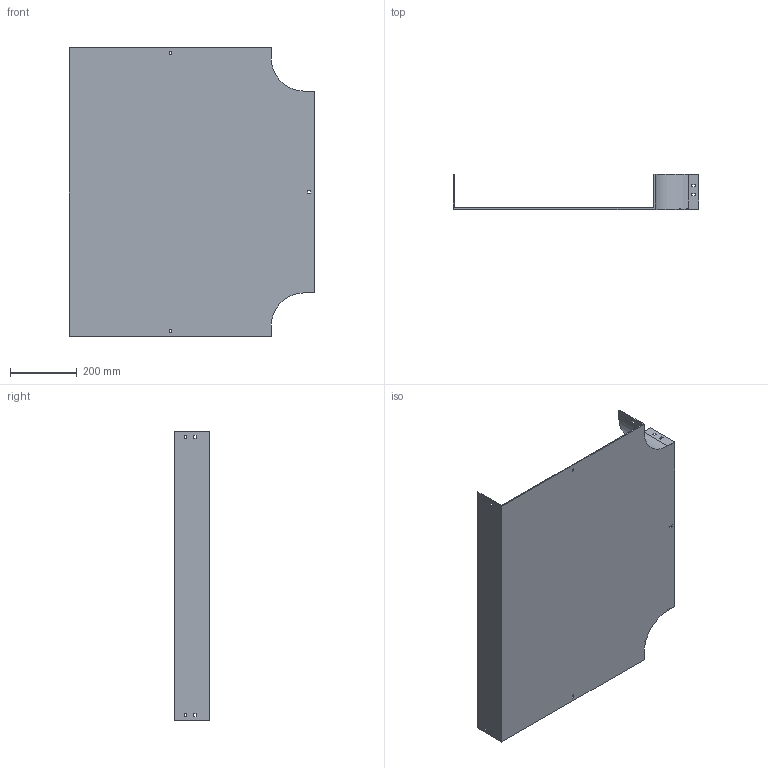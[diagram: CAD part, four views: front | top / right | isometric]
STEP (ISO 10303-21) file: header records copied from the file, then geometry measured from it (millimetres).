
FILE_DESCRIPTION (( 'STEP AP214' ), '1' );
FILE_NAME ('15F1D600.step', '2025-02-21T13:03:56', ( '' ), ( '' ), 'SwSTEP 2.0', 'SolidWorks 2023', '' );
FILE_SCHEMA (( 'AUTOMOTIVE_DESIGN' ));
Length unit declared in the file: millimetre
Products named in the file (1): 15F1D600
Bounding box: 734 x 104 x 864 mm (x, y, z)
Volume: 2571345.2 mm3; surface area: 1484089.7 mm2
Topology: 1 solids, 1 shells, 82 faces, 240 edges, 160 vertices
Faces by surface type: plane 78, cylinder 4
Entity records: 2755 total; most frequent: CARTESIAN_POINT 483, ORIENTED_EDGE 480, DIRECTION 414, EDGE_CURVE 240, LINE 232, VECTOR 232, VERTEX_POINT 160, EDGE_LOOP 112
